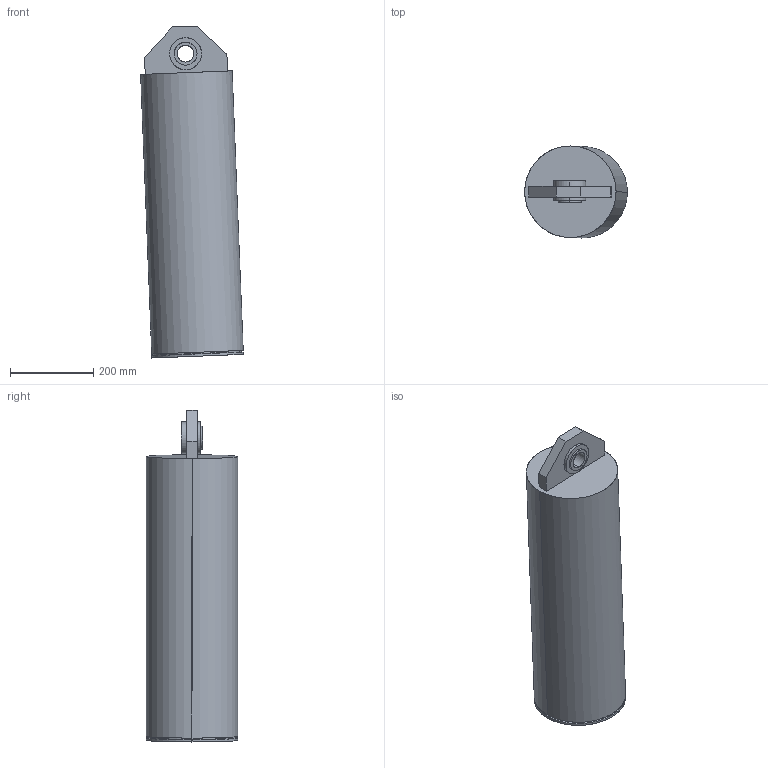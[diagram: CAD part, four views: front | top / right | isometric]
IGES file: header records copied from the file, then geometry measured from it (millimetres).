
Start section: SolidWorks IGES file using analytic representation for surfaces
Global section: file name: C:\Data\Lättmodeller\Nytt\660\IRB660_180-315_IRC5_rev03\IRB660_180-315_IRC5_rev03_IRC5_IGES_j\IRB660_180-315_BALANCE_a_CAD_rev02.IGS; native system: SolidWorks 2014; preprocessor: SolidWorks 2014; author: seadbov; date: 161202.130158; units: millimetre
Bounding box: 246.92 x 220 x 797.9 mm (x, y, z)
Surface area: 602986 mm2 (no closed solid volume)
Topology: 0 solids, 0 shells, 38 faces, 1276 edges, 1276 vertices
Faces by surface type: revolution 22, bspline 16
